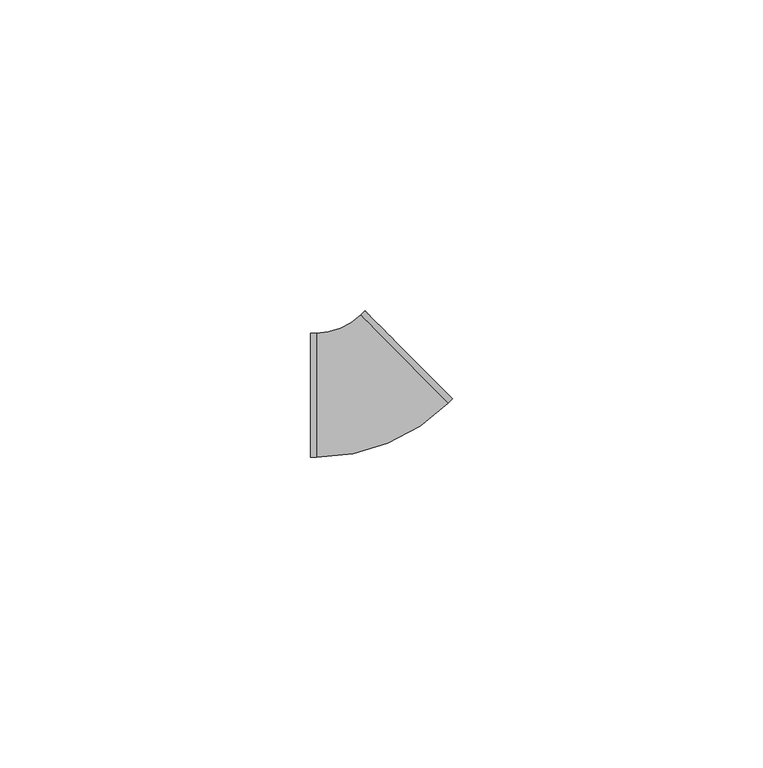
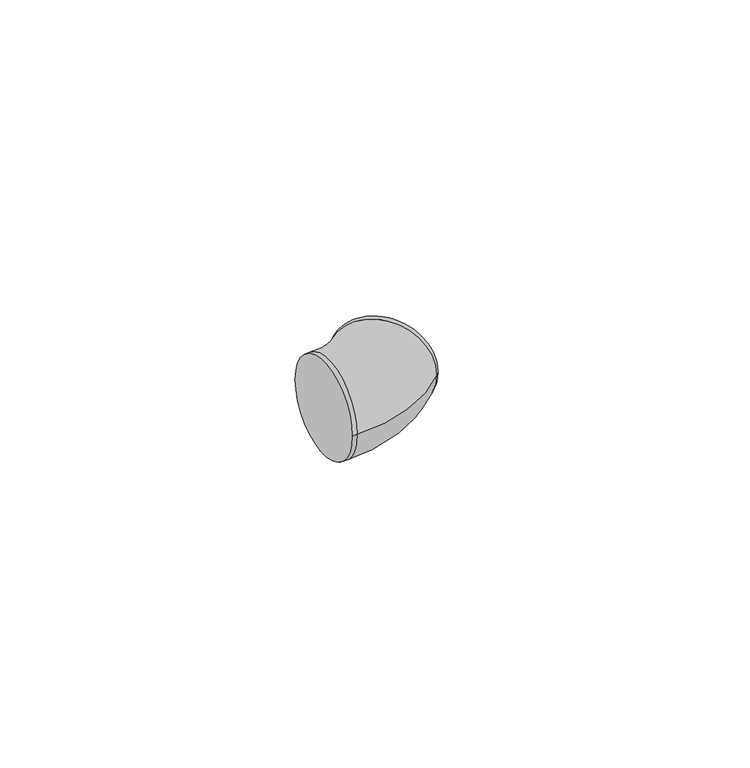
"""IFC4 building model written with IfcOpenShell, lengths in millimetres: cable carrier fitting geometry, ADSK_Поворот_Минимальный размер : Неспецифицируемый."""

from ifc_helpers import new_model, si_unit, point, frame, origin, place, context, project, spatial, circle_curve, ellipse_curve, trimmed, source, transform, mapped, element, save
from ifc_brep_helpers import plane_surface, cylinder_surface, revolved_surface, advanced_brep


def cable_carrier_fitting_4e46bb0d(model_context):
    return source(origin(), model_context, "Body", "AdvancedBrep", [
        advanced_brep(
        [(-9.2453114, -10.0, 0.0), (-9.2453114, 10.0, 0.0), (-8.2453114, -10.0, 0.0), (-8.2453114, 10.0, 0.0), (-1.1978132, 12.9054409, 0.0), (12.8971831, -1.2836774, 0.0), (13.606639, -0.5789276, 0.0), (-0.4883573, 13.6101907, 0.0)],
        [
            (0, 1, circle_curve(frame((-9.2453114, 0.0, 0.0), z_axis=(-1.0, -4.92260399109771e-12, 0.0), x_axis=(-4.92260399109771e-12, 1.0, 0.0)), 10.0)),
            (1, 0, circle_curve(frame((-9.2453114, 0.0, 0.0), z_axis=(-1.0, -4.92260399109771e-12, 0.0), x_axis=(-4.92260399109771e-12, 1.0, 0.0)), 10.0)),
            (0, 2),
            (2, 3, circle_curve(frame((-8.2453114, 0.0, 0.0), z_axis=(-1.0, -4.92260399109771e-12, 0.0), x_axis=(-4.92260399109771e-12, 1.0, 0.0)), 10.0)),
            (3, 1),
            (3, 2, circle_curve(frame((-8.2453114, 0.0, 0.0), z_axis=(-1.0, -4.92260399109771e-12, 0.0), x_axis=(-4.92260399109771e-12, 1.0, 0.0)), 10.0)),
            (4, 3, circle_curve(frame((-8.2453114, 20.0, 0.0), z_axis=(0.0, 0.0, -1.0), x_axis=(0.0, -1.0, 0.0)), 10.0)),
            (2, 5, circle_curve(frame((-8.2453114, 20.0, 0.0), z_axis=(0.0, 0.0, 1.0), x_axis=(0.0, -1.0, 0.0)), 30.0)),
            (5, 4, circle_curve(frame((5.8496849, 5.8108817, 0.0), z_axis=(-0.7094559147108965, -0.7047498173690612, 0.0), x_axis=(-0.7047498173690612, 0.7094559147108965, 0.0)), 10.0)),
            (4, 5, circle_curve(frame((5.8496849, 5.8108817, 0.0), z_axis=(-0.7094559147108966, -0.7047498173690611, 0.0), x_axis=(-0.7047498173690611, 0.7094559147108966, 0.0)), 10.0)),
            (6, 7, circle_curve(frame((6.5591409, 6.5156315, 0.0), z_axis=(0.7094559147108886, 0.7047498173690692, 0.0), x_axis=(-0.7047498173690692, 0.7094559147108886, 0.0)), 10.0)),
            (7, 6, circle_curve(frame((6.5591409, 6.5156315, 0.0), z_axis=(0.7094559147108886, 0.7047498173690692, 0.0), x_axis=(-0.7047498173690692, 0.7094559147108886, 0.0)), 10.0)),
            (5, 6),
            (7, 4),
        ],
        [
            plane_surface(frame((-9.2453114, 0.0, 0.0), z_axis=(-1.0, -4.92260399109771e-12, 0.0), x_axis=(0.0, 0.0, 1.0))),
            cylinder_surface(frame((-9.2453114, 0.0, 0.0), z_axis=(-1.0, -4.92260399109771e-12, 0.0), x_axis=(-4.92260399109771e-12, 1.0, 0.0)), 10.0),
            revolved_surface(trimmed(ellipse_curve(frame((-8.2453114, 0.0, 0.0), z_axis=(-1.0, 0.0, 0.0), x_axis=(0.0, 1.0, 0.0)), 10.0, 10.0), [point((-8.2453114, -10.0, 0.0))], [point((-8.2453114, 10.0, 0.0))], True, "CARTESIAN"), (-8.2453114, 20.0, 0.0), (0.0, 0.0, 1.0)),
            revolved_surface(trimmed(ellipse_curve(frame((-8.2453114, 0.0, 0.0), z_axis=(-1.0, 0.0, 0.0), x_axis=(0.0, 1.0, 0.0)), 10.0, 10.0), [point((-8.2453114, 10.0, 0.0))], [point((-8.2453114, -10.0, 0.0))], True, "CARTESIAN"), (-8.2453114, 20.0, 0.0), (0.0, 0.0, 1.0)),
            plane_surface(frame((6.5591409, 6.5156315, 0.0), z_axis=(0.7094559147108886, 0.7047498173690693, 0.0), x_axis=(0.0, 0.0, 1.0))),
            cylinder_surface(frame((5.8496849, 5.8108817, 0.0), z_axis=(-0.7094559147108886, -0.7047498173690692, 0.0), x_axis=(-0.7047498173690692, 0.7094559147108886, 0.0)), 10.0),
        ],
        [
            (0, [[1, 2]]),
            (1, [[-1, 3, 4, 5]]),
            (1, [[-2, -5, 6, -3]]),
            (2, [[7, -4, 8, 9]]),
            (3, [[-8, -6, -7, 10]]),
            (4, [[11, 12]]),
            (5, [[-9, 13, -12, 14]]),
            (5, [[-10, -14, -11, -13]]),
        ],
    ),
    ])


if __name__ == "__main__":
    model = new_model("IFC4")
    model_context = context("Model", 3, world=origin())
    ifc_project = project(units=[si_unit("LENGTHUNIT", "METRE", prefix="MILLI")], contexts=[model_context])
    site = spatial("IfcSite", under=ifc_project)
    building = spatial("IfcBuilding", under=site)
    placement = place(None, origin())
    cable_carrier_fitting_shape = cable_carrier_fitting_4e46bb0d(model_context)
    element("IfcCableCarrierFitting", 1, ObjectType="ADSK_Поворот_Минимальный размер : Неспецифицируемый", at=placement, inside=building, context=model_context, shape_type="MappedRepresentation", body=[
        mapped(cable_carrier_fitting_shape, transform((0.0, 0.0, 0.0), x_axis=(1.0, 0.0, 0.0), y_axis=(0.0, 1.0, 0.0), z_axis=(0.0, 0.0, 1.0))),
    ])
    save(model, "model.ifc")
